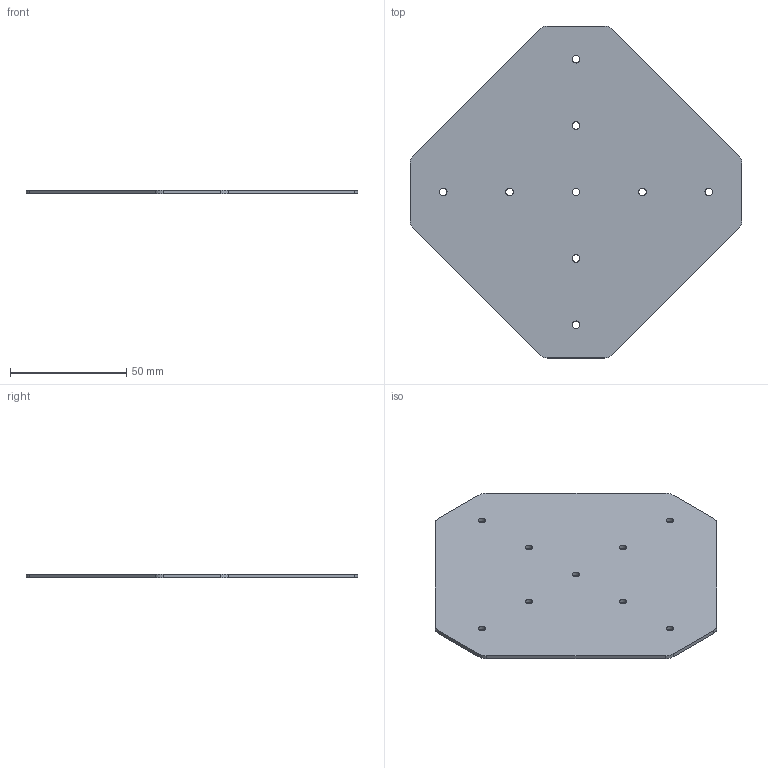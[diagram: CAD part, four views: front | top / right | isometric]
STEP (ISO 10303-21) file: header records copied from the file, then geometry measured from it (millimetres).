
FILE_DESCRIPTION (( 'STEP AP214' ), '1' );
FILE_NAME ('DRP-002-0007-01.step', '2010-06-23T19:09:35', ( '' ), ( '' ), 'SwSTEP 2.0', 'SolidWorks 2010', '' );
FILE_SCHEMA (( 'AUTOMOTIVE_DESIGN' ));
Length unit declared in the file: inch
Products named in the file (1): DRP-002-0007-01
Bounding box: 142.88 x 142.88 x 1.59 mm (x, y, z)
Volume: 21907.4 mm3; surface area: 28440.1 mm2
Topology: 1 solids, 1 shells, 36 faces, 102 edges, 68 vertices
Faces by surface type: cylinder 26, plane 10
Entity records: 1274 total; most frequent: DIRECTION 228, CARTESIAN_POINT 207, ORIENTED_EDGE 204, EDGE_CURVE 102, AXIS2_PLACEMENT_3D 89, VERTEX_POINT 68, EDGE_LOOP 54, CIRCLE 52
